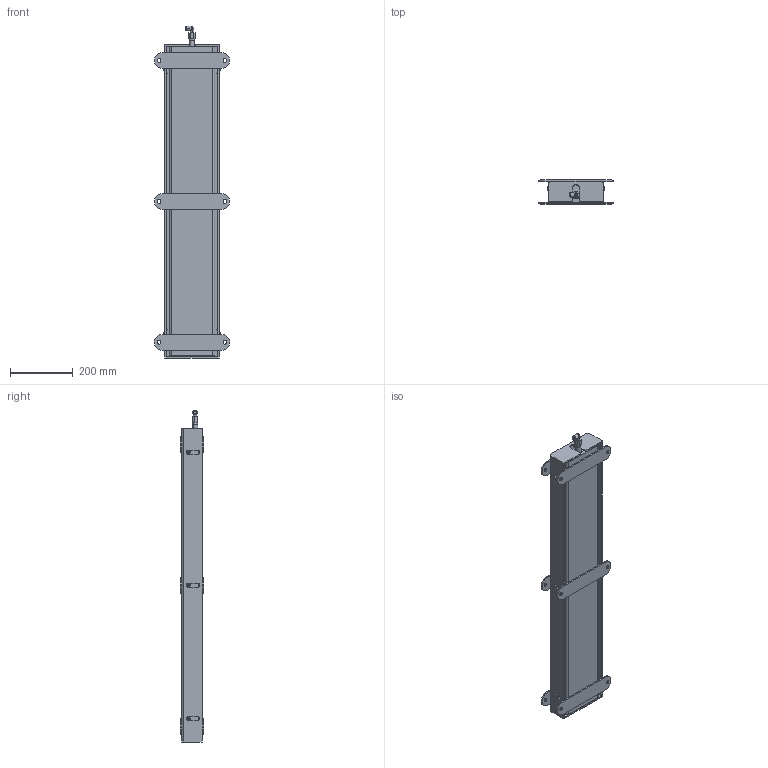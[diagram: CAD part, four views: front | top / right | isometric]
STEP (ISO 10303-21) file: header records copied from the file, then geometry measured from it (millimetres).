
FILE_DESCRIPTION (( 'STEP AP214' ), '1' );
FILE_NAME ('ALB-WB-1000_L.STEP', '2013-03-15T07:47:23', ( '' ), ( '' ), '', '', '' );
FILE_SCHEMA (( 'AUTOMOTIVE_DESIGN' ));
Length unit declared in the file: millimetre
Products named in the file (6): KQ2LF10_03A; SGGD10A_50; CB10_12; frame1; frame2; ALB-WB-1000_L
Assembly tree (10 placements, depth 2):
  ALB-WB-1000_L
    frame2
    frame1
    CB10_12  x6
    SGGD10A_50
    KQ2LF10_03A
Bounding box: 240 x 75 x 1060 mm (x, y, z)
Volume: 2913410.1 mm3; surface area: 1335091.6 mm2
Topology: 22 solids, 22 shells, 397 faces, 942 edges, 591 vertices
Faces by surface type: plane 203, cylinder 145, cone 47, sphere 2
Entity records: 8878 total; most frequent: DIRECTION 1500, CARTESIAN_POINT 1432, ORIENTED_EDGE 1332, EDGE_CURVE 666, AXIS2_PLACEMENT_3D 554, VERTEX_POINT 436, VECTOR 392, LINE 392
